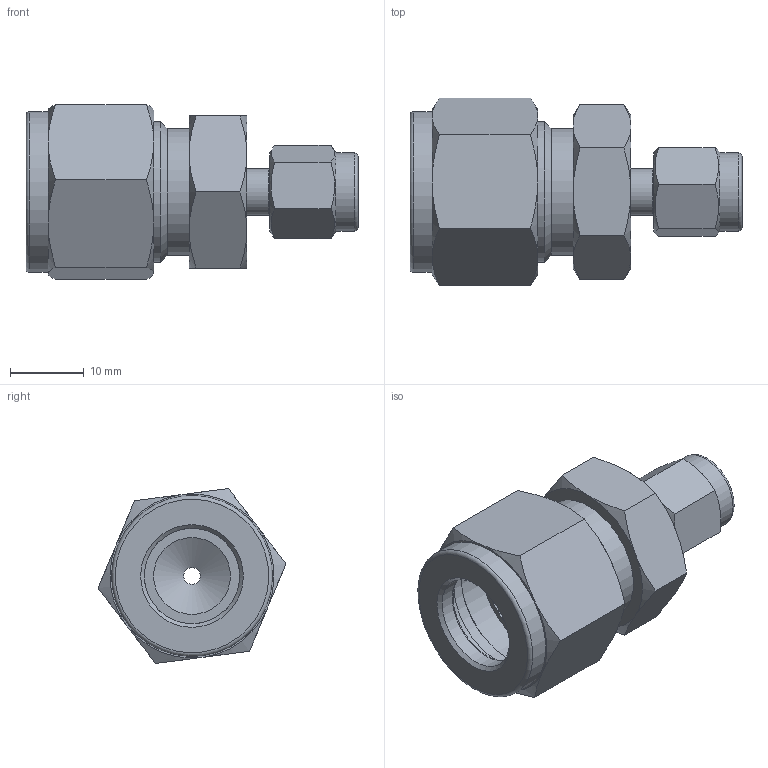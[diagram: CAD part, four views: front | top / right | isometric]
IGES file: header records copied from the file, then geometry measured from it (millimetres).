
Global section: file name: No Iges File Name specified; native system: Autodesk Inventor 2012; preprocessor: AutoDesk Inventor Iges Exporter R2012; author: 硅己绕,,1; organization: 1; date: 20150420.103253; units: millimetre
Bounding box: 44.96 x 25.44 x 23.69 mm (x, y, z)
Volume: 8172.1 mm3; surface area: 6386.9 mm2
Topology: 3 solids, 3 shells, 96 faces, 204 edges, 123 vertices
Faces by surface type: plane 33, cone 30, revolution 21, cylinder 8, torus 4
Full cylindrical faces by diameter (mm): 6.28 x2, 7.94 x1, 10.6 x1, 17.2 x1, 17.3 x1, 19.05 x1, 21.8 x1
